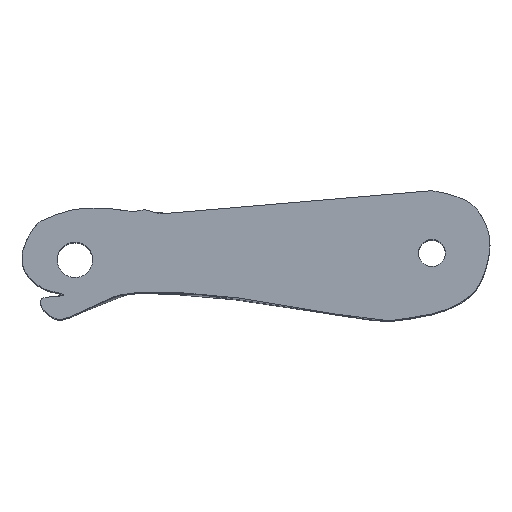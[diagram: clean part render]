
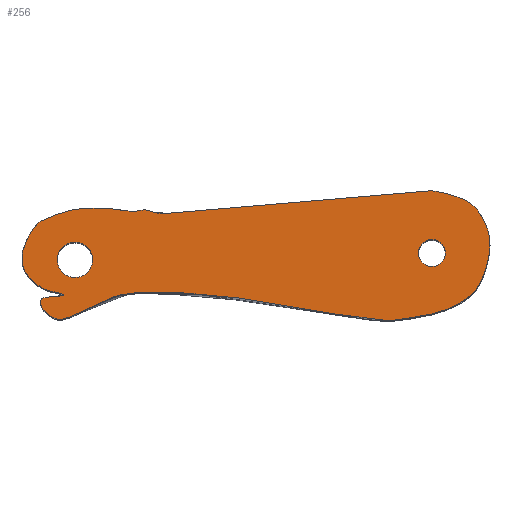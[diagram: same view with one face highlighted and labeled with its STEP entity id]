
A CAD part, top view. The second image highlights one B-rep face of the part: STEP entity #256.
In plain terms, the highlighted planar face has unit normal (0, 0, 1).
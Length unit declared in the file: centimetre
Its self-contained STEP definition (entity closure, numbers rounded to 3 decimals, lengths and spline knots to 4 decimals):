
#151=B_SPLINE_CURVE_WITH_KNOTS('',3,(#838,#839,#840,#841,#842,#843,#844,
#845,#846,#847,#848,#849,#850,#851,#852,#853,#854,#855,#856,#857,#858,#859,
#860,#861,#862,#863,#864,#865,#866,#867,#868,#869,#870,#871,#872,#873,#874,
#875,#876,#877,#878),.UNSPECIFIED.,.T.,.U.,(4,1,1,1,1,1,1,1,1,1,1,1,1,1,
1,1,1,1,1,1,1,1,1,1,1,1,1,1,1,1,1,1,1,1,1,1,1,1,4),(0.,1.,2.,3.,4.,5.,6.,
7.,8.,9.,10.,11.,12.,13.,14.,15.,16.,17.,18.,19.,20.,21.,22.,23.,24.,25.,
26.,27.,28.,29.,30.,31.,32.,33.,34.,35.,36.,37.,38.),.UNSPECIFIED.);
#157=VERTEX_POINT('',#750);
#158=VERTEX_POINT('',#753);
#159=VERTEX_POINT('',#837);
#169=EDGE_CURVE('',#157,#157,#374,.T.);
#170=EDGE_CURVE('',#158,#158,#375,.T.);
#172=EDGE_CURVE('',#159,#159,#151,.F.);
#191=ORIENTED_EDGE('',*,*,#172,.F.);
#192=ORIENTED_EDGE('',*,*,#170,.F.);
#193=ORIENTED_EDGE('',*,*,#169,.F.);
#216=EDGE_LOOP('',(#191));
#217=EDGE_LOOP('',(#192));
#218=EDGE_LOOP('',(#193));
#238=FACE_BOUND('',#216,.T.);
#239=FACE_BOUND('',#217,.T.);
#240=FACE_BOUND('',#218,.T.);
#256=ADVANCED_FACE('',(#238,#239,#240),#488,.T.);
#374=CIRCLE('',#453,1.6509);
#375=CIRCLE('',#455,1.2612);
#453=AXIS2_PLACEMENT_3D('',#749,#1163,#1164);
#455=AXIS2_PLACEMENT_3D('',#752,#1167,#1168);
#456=AXIS2_PLACEMENT_3D('',#879,#1170,$);
#488=PLANE('',#456);
#749=CARTESIAN_POINT('',(101.2912,146.4194,50.8));
#750=CARTESIAN_POINT('',(102.9421,146.4194,50.8));
#752=CARTESIAN_POINT('',(134.4953,147.0496,50.8));
#753=CARTESIAN_POINT('',(135.7566,147.0496,50.8));
#837=CARTESIAN_POINT('',(134.4953,152.8463,50.8));
#838=CARTESIAN_POINT('',(134.4953,152.8463,50.8));
#839=CARTESIAN_POINT('',(110.461,150.7309,50.8));
#840=CARTESIAN_POINT('',(108.8358,150.5878,50.8));
#841=CARTESIAN_POINT('',(107.7996,151.2768,50.8));
#842=CARTESIAN_POINT('',(106.9125,150.7309,50.8));
#843=CARTESIAN_POINT('',(104.6605,151.2768,50.8));
#844=CARTESIAN_POINT('',(102.1356,151.2768,50.8));
#845=CARTESIAN_POINT('',(100.2975,150.9476,50.8));
#846=CARTESIAN_POINT('',(98.1108,150.0603,50.8));
#847=CARTESIAN_POINT('',(97.8255,149.8701,50.8));
#848=CARTESIAN_POINT('',(96.9522,148.7108,50.8));
#849=CARTESIAN_POINT('',(96.1953,146.7962,50.8));
#850=CARTESIAN_POINT('',(96.5515,145.1933,50.8));
#851=CARTESIAN_POINT('',(97.6201,144.1693,50.8));
#852=CARTESIAN_POINT('',(98.6441,143.5014,50.8));
#853=CARTESIAN_POINT('',(100.2975,143.2788,50.8));
#854=CARTESIAN_POINT('',(100.2975,143.0117,50.8));
#855=CARTESIAN_POINT('',(98.6441,143.0117,50.8));
#856=CARTESIAN_POINT('',(98.1108,142.789,50.8));
#857=CARTESIAN_POINT('',(98.1108,142.4774,50.8));
#858=CARTESIAN_POINT('',(98.1108,142.0321,50.8));
#859=CARTESIAN_POINT('',(98.6441,141.4533,50.8));
#860=CARTESIAN_POINT('',(99.5346,140.7409,50.8));
#861=CARTESIAN_POINT('',(100.8703,141.0081,50.8));
#862=CARTESIAN_POINT('',(104.6605,143.0117,50.8));
#863=CARTESIAN_POINT('',(106.0797,143.2788,50.8));
#864=CARTESIAN_POINT('',(108.2168,143.5014,50.8));
#865=CARTESIAN_POINT('',(114.094,143.2788,50.8));
#866=CARTESIAN_POINT('',(120.6391,142.2547,50.8));
#867=CARTESIAN_POINT('',(128.8313,140.7409,50.8));
#868=CARTESIAN_POINT('',(131.3941,140.7409,50.8));
#869=CARTESIAN_POINT('',(135.4233,141.4533,50.8));
#870=CARTESIAN_POINT('',(137.9614,142.789,50.8));
#871=CARTESIAN_POINT('',(139.0798,144.1693,50.8));
#872=CARTESIAN_POINT('',(139.8111,146.4194,50.8));
#873=CARTESIAN_POINT('',(140.0262,148.4353,50.8));
#874=CARTESIAN_POINT('',(139.381,150.0603,50.8));
#875=CARTESIAN_POINT('',(138.6497,151.2768,50.8));
#876=CARTESIAN_POINT('',(137.7033,152.0488,50.8));
#877=CARTESIAN_POINT('',(135.9396,152.608,50.8));
#878=CARTESIAN_POINT('',(134.4953,152.8463,50.8));
#879=CARTESIAN_POINT('',(115.0028,146.5842,50.8));
#1163=DIRECTION('',(0.,0.,1.));
#1164=DIRECTION('',(1.651,0.,0.));
#1167=DIRECTION('',(0.,0.,1.));
#1168=DIRECTION('',(1.261,0.,0.));
#1170=DIRECTION('',(0.,0.,1.));
